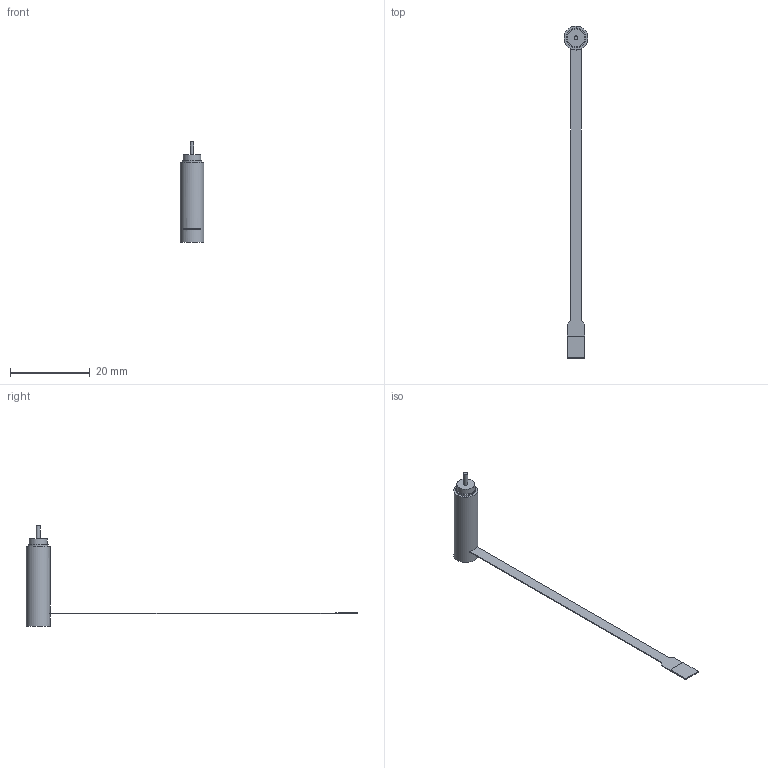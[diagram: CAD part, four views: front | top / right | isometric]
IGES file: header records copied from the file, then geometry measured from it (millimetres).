
Global section: file name: No Iges File Name specified; native system: Autodesk Inventor 2012; preprocessor: AutoDesk Inventor Iges Exporter R2012; author: mangiullo; date: 20130920.112140; units: millimetre
Bounding box: 6 x 83 x 25.15 mm (x, y, z)
Volume: 647 mm3; surface area: 953.8 mm2
Topology: 1 solids, 1 shells, 60 faces, 141 edges, 94 vertices
Faces by surface type: plane 56, cylinder 4
Full cylindrical faces by diameter (mm): 1 x1, 4.5 x1, 5 x1, 6 x1
